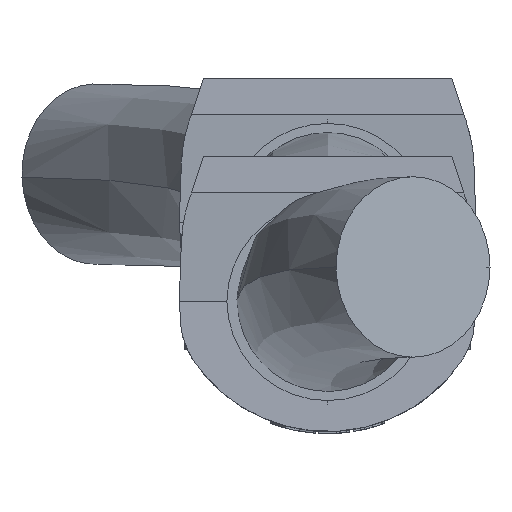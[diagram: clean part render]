
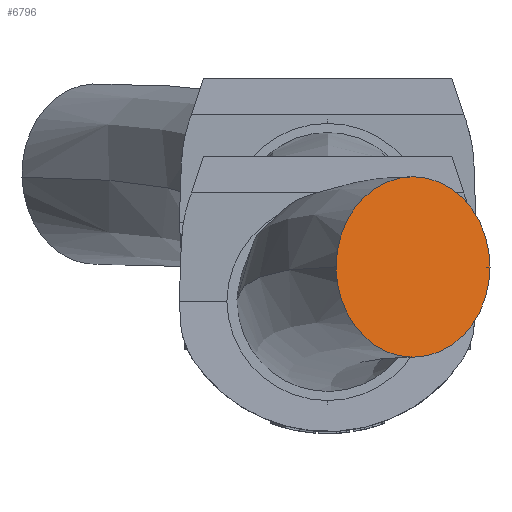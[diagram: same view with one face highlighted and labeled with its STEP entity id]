
A CAD part, top view. The second image highlights one B-rep face of the part: STEP entity #6796.
In plain terms, the highlighted planar face has unit normal (0.522, 0, 0.853).
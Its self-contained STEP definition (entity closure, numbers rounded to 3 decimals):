
#3 = EDGE_CURVE ( 'NONE', #3042, #10116, #7044, .T. ) ;
#650 = DIRECTION ( 'NONE',  ( -0.853, 0., 0.522 ) ) ;
#667 = CIRCLE ( 'NONE', #3856, 45. ) ;
#741 = ORIENTED_EDGE ( 'NONE', *, *, #3, .F. ) ;
#1561 = DIRECTION ( 'NONE',  ( -0.522, 0., -0.853 ) ) ;
#2621 = DIRECTION ( 'NONE',  ( -0.853, 0., 0.522 ) ) ;
#2805 = CARTESIAN_POINT ( 'NONE',  ( 330.613, -444.289, 1796.021 ) ) ;
#3042 = VERTEX_POINT ( 'NONE', #3375 ) ;
#3375 = CARTESIAN_POINT ( 'NONE',  ( 368.991, -444.289, 1772.524 ) ) ;
#3856 = AXIS2_PLACEMENT_3D ( 'NONE', #8765, #6663, #10971 ) ;
#4042 = FACE_OUTER_BOUND ( 'NONE', #5348, .T. ) ;
#4318 = AXIS2_PLACEMENT_3D ( 'NONE', #8153, #1561, #2621 ) ;
#5348 = EDGE_LOOP ( 'NONE', ( #6721, #741 ) ) ;
#6189 = DIRECTION ( 'NONE',  ( -0.522, 0., -0.853 ) ) ;
#6627 = EDGE_CURVE ( 'NONE', #10116, #3042, #667, .T. ) ;
#6663 = DIRECTION ( 'NONE',  ( -0.522, 0., -0.853 ) ) ;
#6721 = ORIENTED_EDGE ( 'NONE', *, *, #6627, .F. ) ;
#6796 = ADVANCED_FACE ( 'NONE', ( #4042 ), #8356, .F. ) ;
#7044 = CIRCLE ( 'NONE', #8171, 45. ) ;
#8153 = CARTESIAN_POINT ( 'NONE',  ( 330.613, -444.289, 1796.021 ) ) ;
#8171 = AXIS2_PLACEMENT_3D ( 'NONE', #2805, #6189, #650 ) ;
#8356 = PLANE ( 'NONE',  #4318 ) ;
#8765 = CARTESIAN_POINT ( 'NONE',  ( 330.613, -444.289, 1796.021 ) ) ;
#10064 = CARTESIAN_POINT ( 'NONE',  ( 292.234, -444.289, 1819.518 ) ) ;
#10116 = VERTEX_POINT ( 'NONE', #10064 ) ;
#10971 = DIRECTION ( 'NONE',  ( -0.853, 0., 0.522 ) ) ;
